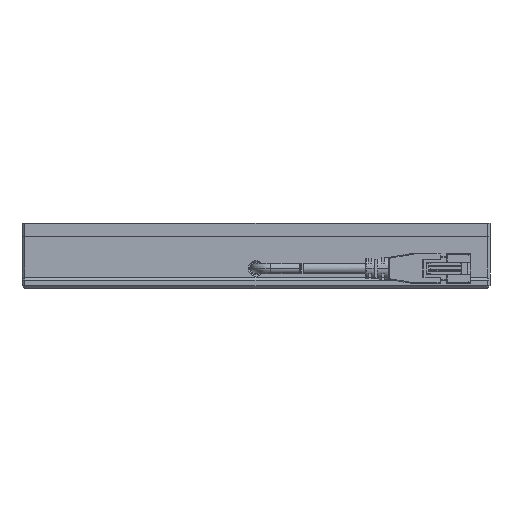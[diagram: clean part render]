
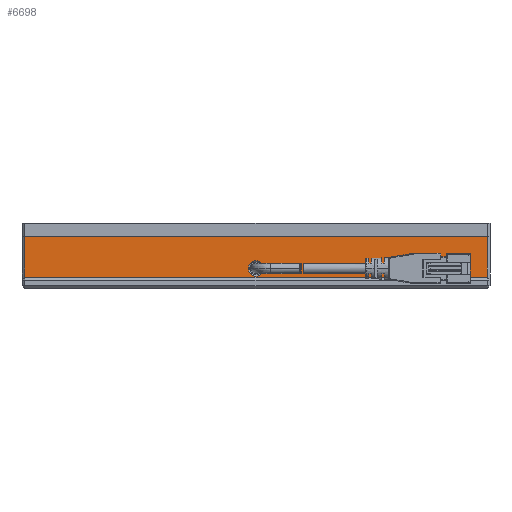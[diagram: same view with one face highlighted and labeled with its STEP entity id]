
A CAD part, front view. The second image highlights one B-rep face of the part: STEP entity #6698.
In plain terms, the highlighted planar face has unit normal (0, -1, 0).
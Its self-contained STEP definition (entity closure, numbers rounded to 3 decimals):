
#124 = EDGE_LOOP ( 'NONE', ( #1531, #1804, #4456, #2916 ) ) ;
#370 = VERTEX_POINT ( 'NONE', #957 ) ;
#509 = DIRECTION ( 'NONE',  ( 0., 0., 1. ) ) ;
#616 = DIRECTION ( 'NONE',  ( 0., 1., 0. ) ) ;
#692 = EDGE_LOOP ( 'NONE', ( #7858, #4287 ) ) ;
#957 = CARTESIAN_POINT ( 'NONE',  ( 79., -105., 18. ) ) ;
#1063 = CARTESIAN_POINT ( 'NONE',  ( 0., -105., 9.65 ) ) ;
#1237 = CARTESIAN_POINT ( 'NONE',  ( -80., -105., 18. ) ) ;
#1244 = EDGE_CURVE ( 'NONE', #3767, #370, #7544, .T. ) ;
#1300 = VECTOR ( 'NONE', #6716, 1000. ) ;
#1531 = ORIENTED_EDGE ( 'NONE', *, *, #1643, .T. ) ;
#1643 = EDGE_CURVE ( 'NONE', #8569, #3767, #5566, .T. ) ;
#1716 = CARTESIAN_POINT ( 'NONE',  ( -79., -105., 18. ) ) ;
#1791 = VECTOR ( 'NONE', #2338, 1000. ) ;
#1804 = ORIENTED_EDGE ( 'NONE', *, *, #1244, .T. ) ;
#1820 = CARTESIAN_POINT ( 'NONE',  ( 79., -105., 4. ) ) ;
#1938 = CARTESIAN_POINT ( 'NONE',  ( 0., -105., 7. ) ) ;
#2066 = CARTESIAN_POINT ( 'NONE',  ( -80., -105., 4. ) ) ;
#2338 = DIRECTION ( 'NONE',  ( 0., 0., 1. ) ) ;
#2614 = CARTESIAN_POINT ( 'NONE',  ( 0., -105., 4.35 ) ) ;
#2664 = DIRECTION ( 'NONE',  ( 0., 1., 0. ) ) ;
#2714 = VERTEX_POINT ( 'NONE', #2614 ) ;
#2742 = DIRECTION ( 'NONE',  ( 0., 0., 1. ) ) ;
#2770 = AXIS2_PLACEMENT_3D ( 'NONE', #1938, #616, #5324 ) ;
#2864 = LINE ( 'NONE', #4727, #5272 ) ;
#2916 = ORIENTED_EDGE ( 'NONE', *, *, #6760, .T. ) ;
#3293 = PLANE ( 'NONE',  #7487 ) ;
#3767 = VERTEX_POINT ( 'NONE', #1820 ) ;
#3947 = VERTEX_POINT ( 'NONE', #1063 ) ;
#4035 = VERTEX_POINT ( 'NONE', #1716 ) ;
#4121 = DIRECTION ( 'NONE',  ( 0., 0., -1. ) ) ;
#4287 = ORIENTED_EDGE ( 'NONE', *, *, #5573, .T. ) ;
#4456 = ORIENTED_EDGE ( 'NONE', *, *, #8031, .F. ) ;
#4727 = CARTESIAN_POINT ( 'NONE',  ( -79., -105., 18. ) ) ;
#4978 = CARTESIAN_POINT ( 'NONE',  ( 79., -105., 18. ) ) ;
#5272 = VECTOR ( 'NONE', #4121, 1000. ) ;
#5324 = DIRECTION ( 'NONE',  ( 0., 0., 1. ) ) ;
#5349 = AXIS2_PLACEMENT_3D ( 'NONE', #7376, #6040, #2742 ) ;
#5566 = LINE ( 'NONE', #2066, #6901 ) ;
#5573 = EDGE_CURVE ( 'NONE', #3947, #2714, #7255, .T. ) ;
#5632 = EDGE_CURVE ( 'NONE', #2714, #3947, #7989, .T. ) ;
#5777 = FACE_OUTER_BOUND ( 'NONE', #124, .T. ) ;
#6040 = DIRECTION ( 'NONE',  ( 0., 1., 0. ) ) ;
#6206 = DIRECTION ( 'NONE',  ( 1., 0., 0. ) ) ;
#6245 = LINE ( 'NONE', #6688, #1300 ) ;
#6688 = CARTESIAN_POINT ( 'NONE',  ( -80., -105., 18. ) ) ;
#6698 = ADVANCED_FACE ( 'NONE', ( #8485, #5777 ), #3293, .F. ) ;
#6716 = DIRECTION ( 'NONE',  ( 1., 0., 0. ) ) ;
#6760 = EDGE_CURVE ( 'NONE', #4035, #8569, #2864, .T. ) ;
#6901 = VECTOR ( 'NONE', #6206, 1000. ) ;
#7255 = CIRCLE ( 'NONE', #2770, 2.65 ) ;
#7376 = CARTESIAN_POINT ( 'NONE',  ( 0., -105., 7. ) ) ;
#7487 = AXIS2_PLACEMENT_3D ( 'NONE', #1237, #2664, #509 ) ;
#7544 = LINE ( 'NONE', #4978, #1791 ) ;
#7858 = ORIENTED_EDGE ( 'NONE', *, *, #5632, .T. ) ;
#7989 = CIRCLE ( 'NONE', #5349, 2.65 ) ;
#8031 = EDGE_CURVE ( 'NONE', #4035, #370, #6245, .T. ) ;
#8173 = CARTESIAN_POINT ( 'NONE',  ( -79., -105., 4. ) ) ;
#8485 = FACE_BOUND ( 'NONE', #692, .T. ) ;
#8569 = VERTEX_POINT ( 'NONE', #8173 ) ;
